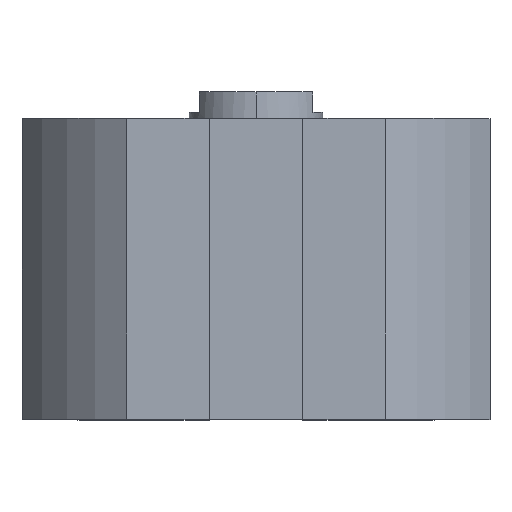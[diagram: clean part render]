
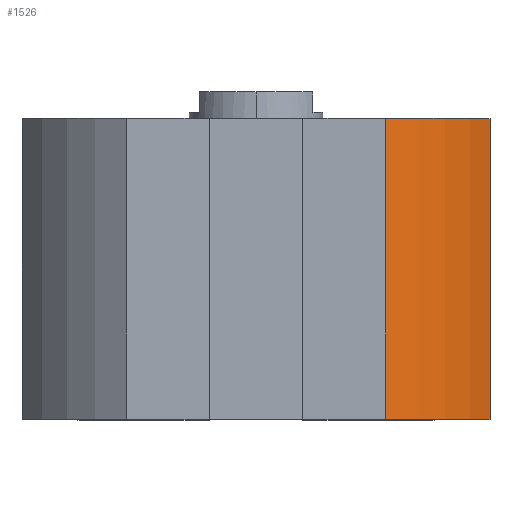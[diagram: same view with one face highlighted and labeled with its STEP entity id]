
A CAD part, top view. The second image highlights one B-rep face of the part: STEP entity #1526.
In plain terms, the highlighted cylindrical face has radius 40 mm (diameter 80 mm), a partial arc.
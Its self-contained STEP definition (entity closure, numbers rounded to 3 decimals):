
#442 = DIRECTION ( 'NONE',  ( 0., 1., 0. ) ) ;
#447 = EDGE_LOOP ( 'NONE', ( #2166, #2893, #1166, #2130 ) ) ;
#477 = LINE ( 'NONE', #1537, #3210 ) ;
#552 = CARTESIAN_POINT ( 'NONE',  ( 19.365, -45., 35. ) ) ;
#651 = VERTEX_POINT ( 'NONE', #2922 ) ;
#665 = DIRECTION ( 'NONE',  ( 0., 0., 1. ) ) ;
#825 = CIRCLE ( 'NONE', #1762, 40. ) ;
#928 = EDGE_CURVE ( 'NONE', #651, #1792, #477, .T. ) ;
#1070 = DIRECTION ( 'NONE',  ( 0., 0., 1. ) ) ;
#1078 = CARTESIAN_POINT ( 'NONE',  ( 19.365, 0., 35. ) ) ;
#1154 = AXIS2_PLACEMENT_3D ( 'NONE', #1476, #1236, #3005 ) ;
#1166 = ORIENTED_EDGE ( 'NONE', *, *, #3050, .T. ) ;
#1236 = DIRECTION ( 'NONE',  ( 0., 1., 0. ) ) ;
#1415 = VECTOR ( 'NONE', #442, 1000. ) ;
#1476 = CARTESIAN_POINT ( 'NONE',  ( 0., -45., 0. ) ) ;
#1526 = ADVANCED_FACE ( 'NONE', ( #2391 ), #3160, .T. ) ;
#1537 = CARTESIAN_POINT ( 'NONE',  ( 35., -45., 19.365 ) ) ;
#1602 = DIRECTION ( 'NONE',  ( 0., 1., 0. ) ) ;
#1690 = EDGE_CURVE ( 'NONE', #2266, #1792, #825, .T. ) ;
#1762 = AXIS2_PLACEMENT_3D ( 'NONE', #2830, #1602, #1070 ) ;
#1792 = VERTEX_POINT ( 'NONE', #3167 ) ;
#1913 = CARTESIAN_POINT ( 'NONE',  ( 19.365, -45., 35. ) ) ;
#1947 = EDGE_CURVE ( 'NONE', #3228, #2266, #2554, .T. ) ;
#2130 = ORIENTED_EDGE ( 'NONE', *, *, #928, .T. ) ;
#2166 = ORIENTED_EDGE ( 'NONE', *, *, #1690, .F. ) ;
#2198 = DIRECTION ( 'NONE',  ( 0., 1., 0. ) ) ;
#2266 = VERTEX_POINT ( 'NONE', #1078 ) ;
#2271 = DIRECTION ( 'NONE',  ( 0., 1., 0. ) ) ;
#2340 = CIRCLE ( 'NONE', #3127, 40. ) ;
#2391 = FACE_OUTER_BOUND ( 'NONE', #447, .T. ) ;
#2446 = CARTESIAN_POINT ( 'NONE',  ( 0., -45., 0. ) ) ;
#2554 = LINE ( 'NONE', #1913, #1415 ) ;
#2830 = CARTESIAN_POINT ( 'NONE',  ( 0., 0., 0. ) ) ;
#2893 = ORIENTED_EDGE ( 'NONE', *, *, #1947, .F. ) ;
#2922 = CARTESIAN_POINT ( 'NONE',  ( 35., -45., 19.365 ) ) ;
#3005 = DIRECTION ( 'NONE',  ( 0., 0., 1. ) ) ;
#3050 = EDGE_CURVE ( 'NONE', #3228, #651, #2340, .T. ) ;
#3127 = AXIS2_PLACEMENT_3D ( 'NONE', #2446, #2198, #665 ) ;
#3160 = CYLINDRICAL_SURFACE ( 'NONE', #1154, 40. ) ;
#3167 = CARTESIAN_POINT ( 'NONE',  ( 35., 0., 19.365 ) ) ;
#3210 = VECTOR ( 'NONE', #2271, 1000. ) ;
#3228 = VERTEX_POINT ( 'NONE', #552 ) ;
